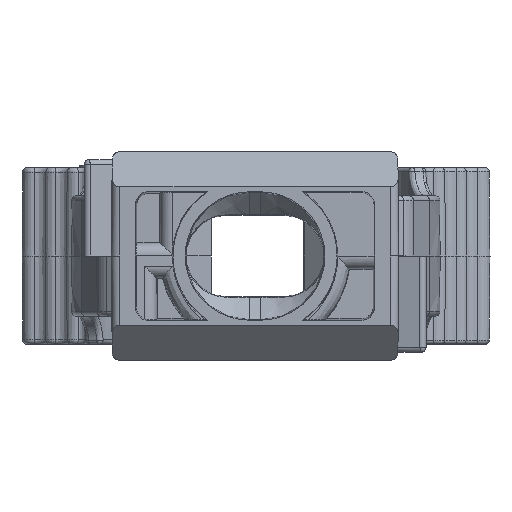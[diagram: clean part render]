
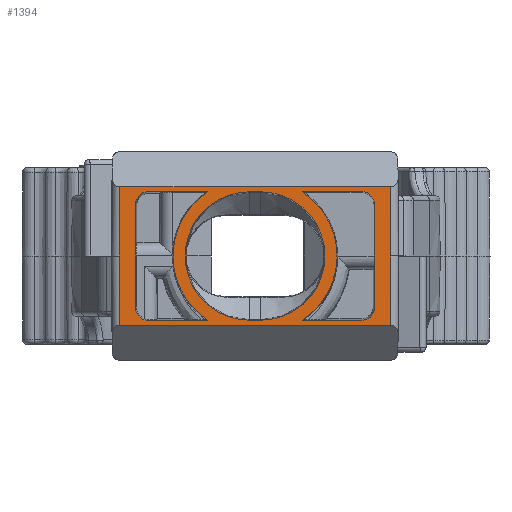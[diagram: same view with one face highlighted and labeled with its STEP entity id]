
A CAD part, front view. The second image highlights one B-rep face of the part: STEP entity #1394.
In plain terms, the highlighted planar face has unit normal (0, -1, 0).
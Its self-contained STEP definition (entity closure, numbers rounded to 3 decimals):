
#338=ELLIPSE('',#9059,0.8,0.8);
#340=ELLIPSE('',#9063,0.8,0.8);
#341=ELLIPSE('',#9064,0.8,0.8);
#342=ELLIPSE('',#9065,0.8,0.8);
#1394=ADVANCED_FACE('',(#3100,#3101,#3102,#3103),#1634,.F.);
#1634=PLANE('',#9066);
#1936=CIRCLE('',#9053,4.);
#1937=CIRCLE('',#9055,4.);
#2312=LINE('',#15198,#2874);
#2315=LINE('',#15209,#2877);
#2316=LINE('',#15216,#2878);
#2321=LINE('',#15225,#2883);
#2326=LINE('',#15359,#2888);
#2327=LINE('',#15361,#2889);
#2352=LINE('',#15649,#2914);
#2356=LINE('',#15658,#2918);
#2376=LINE('',#15892,#2938);
#2377=LINE('',#15896,#2939);
#2378=LINE('',#15900,#2940);
#2379=LINE('',#15901,#2941);
#2380=LINE('',#15902,#2942);
#2381=LINE('',#15906,#2943);
#2874=VECTOR('',#10739,1.);
#2877=VECTOR('',#10748,1.);
#2878=VECTOR('',#10755,1.);
#2883=VECTOR('',#10764,1.);
#2888=VECTOR('',#10779,1.);
#2889=VECTOR('',#10782,1.);
#2914=VECTOR('',#10889,1.);
#2918=VECTOR('',#10895,1.);
#2938=VECTOR('',#10961,1.);
#2939=VECTOR('',#10964,1.);
#2940=VECTOR('',#10967,1.);
#2941=VECTOR('',#10968,1.);
#2942=VECTOR('',#10969,1.);
#2943=VECTOR('',#10972,1.);
#3100=FACE_BOUND('',#3484,.T.);
#3101=FACE_BOUND('',#3485,.T.);
#3102=FACE_BOUND('',#3486,.T.);
#3103=FACE_BOUND('',#3487,.T.);
#3484=EDGE_LOOP('',(#5380,#5381,#5382,#5383,#5384,#5385));
#3485=EDGE_LOOP('',(#5386,#5387,#5388,#5389,#5390,#5391));
#3486=EDGE_LOOP('',(#5392,#5393,#5394,#5395,#5396,#5397));
#3487=EDGE_LOOP('',(#5398,#5399,#5400,#5401));
#5380=ORIENTED_EDGE('',*,*,#7747,.F.);
#5381=ORIENTED_EDGE('',*,*,#7725,.T.);
#5382=ORIENTED_EDGE('',*,*,#7728,.T.);
#5383=ORIENTED_EDGE('',*,*,#7748,.F.);
#5384=ORIENTED_EDGE('',*,*,#7720,.F.);
#5385=ORIENTED_EDGE('',*,*,#7734,.F.);
#5386=ORIENTED_EDGE('',*,*,#7739,.T.);
#5387=ORIENTED_EDGE('',*,*,#7850,.F.);
#5388=ORIENTED_EDGE('',*,*,#7851,.T.);
#5389=ORIENTED_EDGE('',*,*,#7852,.F.);
#5390=ORIENTED_EDGE('',*,*,#7853,.T.);
#5391=ORIENTED_EDGE('',*,*,#7854,.F.);
#5392=ORIENTED_EDGE('',*,*,#7746,.T.);
#5393=ORIENTED_EDGE('',*,*,#7855,.F.);
#5394=ORIENTED_EDGE('',*,*,#7848,.T.);
#5395=ORIENTED_EDGE('',*,*,#7856,.F.);
#5396=ORIENTED_EDGE('',*,*,#7857,.F.);
#5397=ORIENTED_EDGE('',*,*,#7858,.F.);
#5398=ORIENTED_EDGE('',*,*,#7838,.T.);
#5399=ORIENTED_EDGE('',*,*,#7808,.F.);
#5400=ORIENTED_EDGE('',*,*,#7839,.T.);
#5401=ORIENTED_EDGE('',*,*,#7804,.F.);
#6645=VERTEX_POINT('',#15196);
#6647=VERTEX_POINT('',#15199);
#6651=VERTEX_POINT('',#15208);
#6652=VERTEX_POINT('',#15210);
#6653=VERTEX_POINT('',#15214);
#6656=VERTEX_POINT('',#15224);
#6657=VERTEX_POINT('',#15247);
#6658=VERTEX_POINT('',#15248);
#6661=VERTEX_POINT('',#15302);
#6664=VERTEX_POINT('',#15322);
#6702=VERTEX_POINT('',#15650);
#6703=VERTEX_POINT('',#15651);
#6706=VERTEX_POINT('',#15659);
#6707=VERTEX_POINT('',#15660);
#6726=VERTEX_POINT('',#15877);
#6728=VERTEX_POINT('',#15887);
#6729=VERTEX_POINT('',#15893);
#6730=VERTEX_POINT('',#15895);
#6731=VERTEX_POINT('',#15897);
#6732=VERTEX_POINT('',#15899);
#6733=VERTEX_POINT('',#15903);
#6734=VERTEX_POINT('',#15905);
#7720=EDGE_CURVE('',#6645,#6647,#2312,.T.);
#7725=EDGE_CURVE('',#6652,#6651,#2315,.T.);
#7728=EDGE_CURVE('',#6651,#6653,#2316,.T.);
#7734=EDGE_CURVE('',#6656,#6645,#2321,.T.);
#7739=EDGE_CURVE('',#6657,#6658,#8285,.T.);
#7746=EDGE_CURVE('',#6661,#6664,#8292,.T.);
#7747=EDGE_CURVE('',#6652,#6656,#2326,.T.);
#7748=EDGE_CURVE('',#6647,#6653,#2327,.T.);
#7804=EDGE_CURVE('',#6702,#6703,#2352,.T.);
#7808=EDGE_CURVE('',#6706,#6707,#2356,.T.);
#7838=EDGE_CURVE('',#6702,#6707,#1936,.T.);
#7839=EDGE_CURVE('',#6706,#6703,#1937,.T.);
#7848=EDGE_CURVE('',#6726,#6728,#338,.T.);
#7850=EDGE_CURVE('',#6729,#6658,#2376,.T.);
#7851=EDGE_CURVE('',#6729,#6730,#340,.T.);
#7852=EDGE_CURVE('',#6731,#6730,#2377,.T.);
#7853=EDGE_CURVE('',#6731,#6732,#341,.T.);
#7854=EDGE_CURVE('',#6657,#6732,#2378,.T.);
#7855=EDGE_CURVE('',#6726,#6664,#2379,.T.);
#7856=EDGE_CURVE('',#6733,#6728,#2380,.T.);
#7857=EDGE_CURVE('',#6734,#6733,#342,.T.);
#7858=EDGE_CURVE('',#6661,#6734,#2381,.T.);
#8285=B_SPLINE_CURVE_WITH_KNOTS('',3,(#15235,#15236,#15237,#15238,#15239,
#15240,#15241,#15242,#15243,#15244,#15245,#15246),.UNSPECIFIED.,.F.,.F.,
(4,1,1,1,1,1,1,1,1,4),(0.,0.048,0.143,0.286,
0.429,0.571,0.714,0.857,
0.952,1.),.UNSPECIFIED.);
#8292=B_SPLINE_CURVE_WITH_KNOTS('',3,(#15323,#15324,#15325,#15326,#15327,
#15328,#15329,#15330,#15331,#15332,#15333,#15334),.UNSPECIFIED.,.F.,.F.,
(4,1,1,1,1,1,1,1,1,4),(0.,0.048,0.143,0.286,
0.429,0.571,0.714,0.857,
0.952,1.),.UNSPECIFIED.);
#9053=AXIS2_PLACEMENT_3D('',#15864,#10935,#10936);
#9055=AXIS2_PLACEMENT_3D('',#15866,#10939,#10940);
#9059=AXIS2_PLACEMENT_3D('',#15888,#10953,#10954);
#9063=AXIS2_PLACEMENT_3D('',#15894,#10962,#10963);
#9064=AXIS2_PLACEMENT_3D('',#15898,#10965,#10966);
#9065=AXIS2_PLACEMENT_3D('',#15904,#10970,#10971);
#9066=AXIS2_PLACEMENT_3D('',#15907,#10973,#10974);
#10739=DIRECTION('',(0.009,0.,-1.));
#10748=DIRECTION('',(0.009,0.,-1.));
#10755=DIRECTION('',(1.,0.,0.));
#10764=DIRECTION('',(1.,0.,0.));
#10779=DIRECTION('',(0.009,0.,1.));
#10782=DIRECTION('',(-0.009,0.,-1.));
#10889=DIRECTION('',(1.,0.,0.));
#10895=DIRECTION('',(-1.,0.,0.));
#10935=DIRECTION('',(0.,1.,0.));
#10936=DIRECTION('',(1.,0.,0.));
#10939=DIRECTION('',(0.,1.,0.));
#10940=DIRECTION('',(1.,0.,0.));
#10953=DIRECTION('',(0.,1.,0.));
#10954=DIRECTION('',(0.707,0.,0.707));
#10961=DIRECTION('',(-1.,0.,0.));
#10962=DIRECTION('',(0.,1.,0.));
#10963=DIRECTION('',(-0.707,0.,-0.707));
#10964=DIRECTION('',(0.,0.,1.));
#10965=DIRECTION('',(0.,1.,0.));
#10966=DIRECTION('',(-0.707,0.,0.707));
#10967=DIRECTION('',(1.,0.,0.));
#10968=DIRECTION('',(1.,0.,0.));
#10969=DIRECTION('',(0.,0.,-1.));
#10970=DIRECTION('',(0.,-1.,0.));
#10971=DIRECTION('',(0.707,0.,-0.707));
#10972=DIRECTION('',(-1.,0.,0.));
#10973=DIRECTION('',(0.,1.,0.));
#10974=DIRECTION('',(-1.,0.,0.));
#15196=CARTESIAN_POINT('',(17.362,0.,4.3));
#15198=CARTESIAN_POINT('',(17.362,0.,4.3));
#15199=CARTESIAN_POINT('',(17.4,0.,0.));
#15208=CARTESIAN_POINT('',(0.538,0.,-4.3));
#15209=CARTESIAN_POINT('',(0.5,0.,-0.004));
#15210=CARTESIAN_POINT('',(0.5,0.,0.));
#15214=CARTESIAN_POINT('',(17.362,0.,-4.3));
#15216=CARTESIAN_POINT('',(0.538,0.,-4.3));
#15224=CARTESIAN_POINT('',(0.538,0.,4.3));
#15225=CARTESIAN_POINT('',(0.538,0.,4.3));
#15235=CARTESIAN_POINT('',(11.882,0.,-4.));
#15236=CARTESIAN_POINT('',(12.008,0.,-3.918));
#15237=CARTESIAN_POINT('',(12.376,0.,-3.655));
#15238=CARTESIAN_POINT('',(13.033,0.,-3.027));
#15239=CARTESIAN_POINT('',(13.691,0.,-2.001));
#15240=CARTESIAN_POINT('',(14.077,0.,-0.686));
#15241=CARTESIAN_POINT('',(14.077,0.,0.686));
#15242=CARTESIAN_POINT('',(13.691,0.,2.001));
#15243=CARTESIAN_POINT('',(13.033,0.,3.027));
#15244=CARTESIAN_POINT('',(12.376,0.,3.655));
#15245=CARTESIAN_POINT('',(12.008,0.,3.918));
#15246=CARTESIAN_POINT('',(11.882,0.,4.));
#15247=CARTESIAN_POINT('',(11.882,0.,-4.));
#15248=CARTESIAN_POINT('',(11.882,0.,4.));
#15302=CARTESIAN_POINT('',(6.018,0.,4.));
#15322=CARTESIAN_POINT('',(6.018,0.,-4.));
#15323=CARTESIAN_POINT('',(6.018,0.,4.));
#15324=CARTESIAN_POINT('',(5.892,0.,3.918));
#15325=CARTESIAN_POINT('',(5.524,0.,3.655));
#15326=CARTESIAN_POINT('',(4.867,0.,3.027));
#15327=CARTESIAN_POINT('',(4.209,0.,2.001));
#15328=CARTESIAN_POINT('',(3.823,0.,0.686));
#15329=CARTESIAN_POINT('',(3.823,0.,-0.686));
#15330=CARTESIAN_POINT('',(4.209,0.,-2.001));
#15331=CARTESIAN_POINT('',(4.867,0.,-3.027));
#15332=CARTESIAN_POINT('',(5.524,0.,-3.655));
#15333=CARTESIAN_POINT('',(5.892,0.,-3.918));
#15334=CARTESIAN_POINT('',(6.018,0.,-4.));
#15359=CARTESIAN_POINT('',(0.5,0.,-0.004));
#15361=CARTESIAN_POINT('',(17.436,0.,4.163));
#15649=CARTESIAN_POINT('',(1.489,0.,-4.));
#15650=CARTESIAN_POINT('',(8.6,0.,-4.));
#15651=CARTESIAN_POINT('',(9.3,0.,-4.));
#15658=CARTESIAN_POINT('',(9.3,0.,4.));
#15659=CARTESIAN_POINT('',(9.3,0.,4.));
#15660=CARTESIAN_POINT('',(8.6,0.,4.));
#15864=CARTESIAN_POINT('',(8.6,0.,0.));
#15866=CARTESIAN_POINT('',(9.3,0.,0.));
#15877=CARTESIAN_POINT('',(2.3,0.,-4.));
#15887=CARTESIAN_POINT('',(1.5,0.,-3.2));
#15888=CARTESIAN_POINT('',(2.3,0.,-3.2));
#15892=CARTESIAN_POINT('',(15.6,0.,4.));
#15893=CARTESIAN_POINT('',(15.6,0.,4.));
#15894=CARTESIAN_POINT('',(15.6,0.,3.2));
#15895=CARTESIAN_POINT('',(16.4,0.,3.2));
#15896=CARTESIAN_POINT('',(16.4,0.,-3.2));
#15897=CARTESIAN_POINT('',(16.4,0.,-3.2));
#15898=CARTESIAN_POINT('',(15.6,0.,-3.2));
#15899=CARTESIAN_POINT('',(15.6,0.,-4.));
#15900=CARTESIAN_POINT('',(1.489,0.,-4.));
#15901=CARTESIAN_POINT('',(2.3,0.,-4.));
#15902=CARTESIAN_POINT('',(1.5,0.,3.2));
#15903=CARTESIAN_POINT('',(1.5,0.,3.2));
#15904=CARTESIAN_POINT('',(2.3,0.,3.2));
#15905=CARTESIAN_POINT('',(2.3,0.,4.));
#15906=CARTESIAN_POINT('',(16.4,0.,4.));
#15907=CARTESIAN_POINT('',(0.489,0.,4.311));
